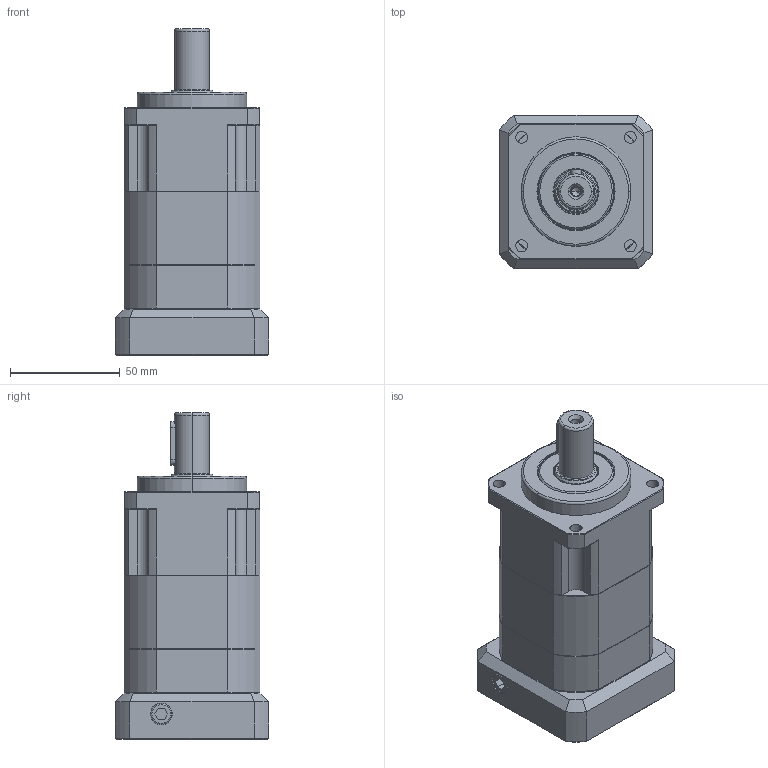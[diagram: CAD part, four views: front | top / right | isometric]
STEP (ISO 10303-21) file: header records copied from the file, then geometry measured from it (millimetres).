
FILE_DESCRIPTION (( 'STEP AP203' ), '1' );
FILE_NAME ('SB62A-2-60M5.step', '2023-11-16T03:42:25', ( '' ), ( '' ), 'SwSTEP 2.0', 'SolidWorks 2021', '' );
FILE_SCHEMA (( 'CONFIG_CONTROL_DESIGN' ));
Length unit declared in the file: millimetre
Products named in the file (1): SB62A-2-60M5
Bounding box: 70 x 70 x 148.8 mm (x, y, z)
Volume: 371295.9 mm3; surface area: 58660.4 mm2
Topology: 3 solids, 16 shells, 630 faces, 1547 edges, 949 vertices
Faces by surface type: plane 252, cylinder 194, cone 145, torus 29, bspline 10
Entity records: 19756 total; most frequent: CARTESIAN_POINT 4765, DIRECTION 3261, ORIENTED_EDGE 3042, EDGE_CURVE 1521, AXIS2_PLACEMENT_3D 1285, VERTEX_POINT 949, LINE 691, VECTOR 691
